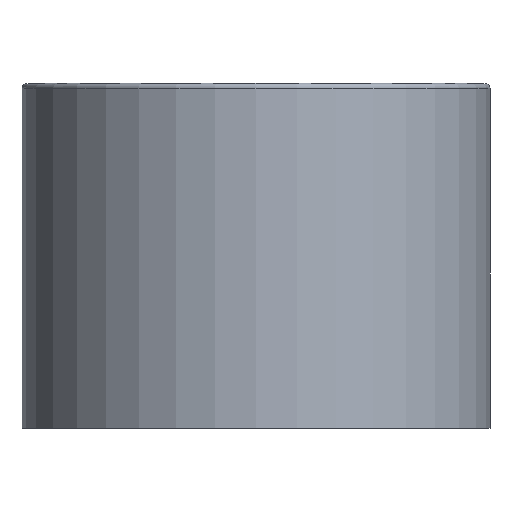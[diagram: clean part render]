
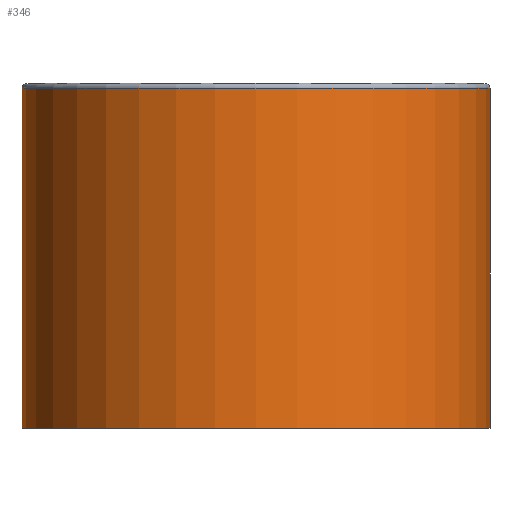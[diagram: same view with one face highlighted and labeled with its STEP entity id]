
A CAD part, top view. The second image highlights one B-rep face of the part: STEP entity #346.
In plain terms, the highlighted cylindrical face has radius 47.5 mm (diameter 95 mm), a full revolution.
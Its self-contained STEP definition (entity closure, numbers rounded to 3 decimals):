
#97=ORIENTED_EDGE('',*,*,#140,.T.);
#98=ORIENTED_EDGE('',*,*,#139,.F.);
#139=EDGE_CURVE('',#167,#167,#187,.T.);
#140=EDGE_CURVE('',#168,#168,#188,.T.);
#167=VERTEX_POINT('',#997);
#168=VERTEX_POINT('',#1000);
#187=CIRCLE('',#397,47.5);
#188=CIRCLE('',#399,47.5);
#222=EDGE_LOOP('',(#97));
#223=EDGE_LOOP('',(#98));
#262=FACE_BOUND('',#222,.T.);
#263=FACE_BOUND('',#223,.T.);
#277=CYLINDRICAL_SURFACE('',#398,47.5);
#346=ADVANCED_FACE('',(#262,#263),#277,.T.);
#397=AXIS2_PLACEMENT_3D('',#996,#475,#476);
#398=AXIS2_PLACEMENT_3D('',#998,#477,#478);
#399=AXIS2_PLACEMENT_3D('',#999,#479,#480);
#475=DIRECTION('',(0.,-1.,0.));
#476=DIRECTION('',(1.,0.,0.));
#477=DIRECTION('',(0.,-1.,0.));
#478=DIRECTION('',(1.,0.,0.));
#479=DIRECTION('',(0.,-1.,0.));
#480=DIRECTION('',(1.,0.,0.));
#996=CARTESIAN_POINT('',(0.,0.,0.));
#997=CARTESIAN_POINT('',(47.5,0.,0.));
#998=CARTESIAN_POINT('',(0.,13.5,0.));
#999=CARTESIAN_POINT('',(0.,69.,0.));
#1000=CARTESIAN_POINT('',(47.5,69.,0.));
